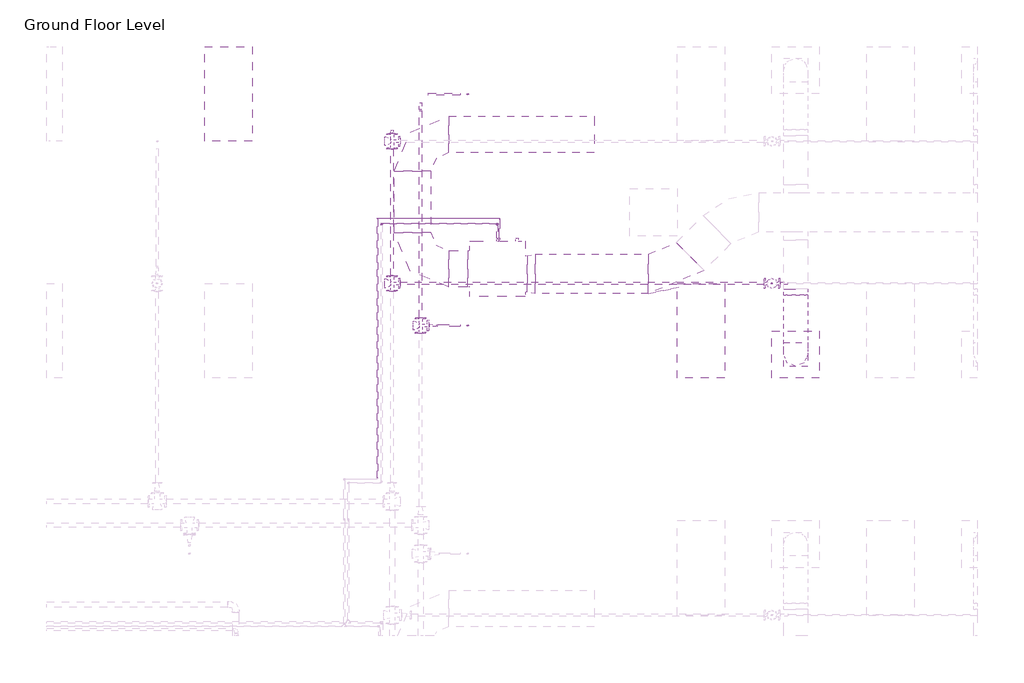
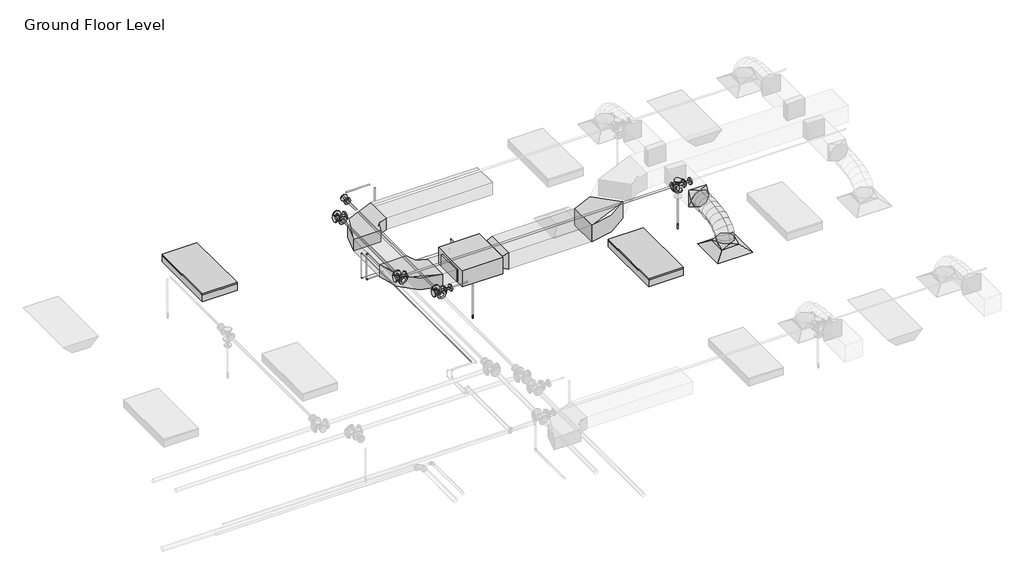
# One storey, part 70 of 72: 18 pipe segments, 15 pipe fittings, 6 duct fittings, 5 duct segments, 3 fire suppression terminals, 2 light fixtures, 1 air terminal, 1 proxy.
"""IFC4 building model written with IfcOpenShell, lengths in millimetres."""

from ifc_helpers import new_model, si_unit, point, frame, frame_2d, origin, place, context, project, spatial, polyline, circle_curve, ellipse_curve, trimmed, segment, composite_curve, outline, extrude, transform, mapped, element, save
from ifc_brep_helpers import plane_surface, cylinder_surface, advanced_brep
from components import m_return_diffuser_600_x_600_face_300_x_300_connection_ff221211, fcu_daikin_iu_bad131e0, m_rectangular_elbow_radius_1_w_54c96895, m_rectangular_elbow_radius_1_5_w_acc56c25, m_rectangular_transition_angle_45_degree_2b595dfe, m_rectangular_to_round_transition_angle_45_degree_641efff0, m_sprinkler_dry_pendent_hosted_15_mm_dry_pendent_9bda8e11, m_sprinkler_pendent_15_mm_pendent_06fcbd8e, m_troffer_light_parabolic_rectangular1_0600x1200mm_4_lamp_86473d4a, m_elbow_generic_standard_a088f956, m_elbow_generic_standard_2a704253, m_reducer_flanged_cs_class_150_standard_ccf252ad, m_reducer_flanged_cs_class_150_standard_d42b2106, m_tee_round_base_flanged_cs_class_150_standard_7e5987a1

model = new_model("IFC4")

# Units and contexts
model_context = context("Model", 3, world=origin())
ifc_project = project(units=[si_unit("LENGTHUNIT", "METRE", prefix="MILLI")], contexts=[model_context])

# Site, building, storey
site = spatial("IfcSite", under=ifc_project)
building = spatial("IfcBuilding", under=site)
storey = spatial("IfcBuildingStorey", under=building, Name="Ground Floor Level", Elevation=900.0)

# Air terminal
placement = place(None, origin())
m_return_diffuser_600_x_600_face_300_x_300_connection_shape = m_return_diffuser_600_x_600_face_300_x_300_connection_ff221211(model_context)
element("IfcAirTerminal", 1, ObjectType="M_Supply Diffuser : 600 x 600 Face 300 x 300 Connection", at=placement, inside=storey, context=model_context, shape_type="MappedRepresentation", body=[
    mapped(m_return_diffuser_600_x_600_face_300_x_300_connection_shape, transform((10742.7672395, 16935.2153534, 3650.0), x_axis=(1.0, 0.0, 0.0), y_axis=(0.0, 1.0, 0.0), z_axis=(0.0, 0.0, 1.0))),
])

# Proxy
fcu_daikin_iu_shape = fcu_daikin_iu_bad131e0(model_context)
element("IfcBuildingElementProxy", 2, Name="FCU-DAIKIN IU : 4.5kW, 230V/50Hz/1Ph", ObjectType="FCU-DAIKIN IU : 4.5kW, 230V/50Hz/1Ph", at=placement, inside=storey, context=model_context, shape_type="MappedRepresentation", body=[
    mapped(fcu_daikin_iu_shape, transform((6968.8139492, 18019.6779527, 3934.0932729), x_axis=(0.0, 1.0, 0.0), y_axis=(-1.0, 0.0, 0.0), z_axis=(0.0, 0.0, 1.0))),
])

# Duct fittings
m_rectangular_elbow_radius_1_w_shape = m_rectangular_elbow_radius_1_w_54c96895(model_context)
element("IfcDuctFitting", 3, ObjectType="M_Rectangular Elbow - Radius : 1 W", at=placement, inside=storey, context=model_context, shape_type="MappedRepresentation", body=[
    mapped(m_rectangular_elbow_radius_1_w_shape, transform((5893.4139492, 18019.6779527, 4075.2932729), x_axis=(0.0, -1.0, 0.0), y_axis=(1.0, 0.0, 0.0), z_axis=(0.0, 0.0, 1.0))),
])
element("IfcDuctFitting", 4, ObjectType="M_Rectangular Elbow - Radius : 1 W", at=placement, inside=storey, context=model_context, shape_type="MappedRepresentation", body=[
    mapped(m_rectangular_elbow_radius_1_w_shape, transform((5893.4139492, 19719.6783949, 4075.2932729), x_axis=(-1.0, 0.0, 0.0), y_axis=(0.0, -1.0, 0.0), z_axis=(0.0, 0.0, 1.0))),
])
m_rectangular_elbow_radius_1_5_w_shape = m_rectangular_elbow_radius_1_5_w_acc56c25(model_context)
element("IfcDuctFitting", 5, ObjectType="M_Rectangular Elbow - Radius : 1.5 W", at=placement, inside=storey, context=model_context, shape_type="MappedRepresentation", body=[
    mapped(m_rectangular_elbow_radius_1_5_w_shape, transform((9187.6927358, 17956.1779527, 4100.0047224), x_axis=(0.9999999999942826, 0.0, -3.3815582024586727e-06), y_axis=(-9.063610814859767e-12, 0.9999999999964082, -2.680306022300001e-06), z_axis=(3.3815582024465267e-06, 2.6803060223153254e-06, 0.9999999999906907))),
])
m_rectangular_transition_angle_45_degree_shape = m_rectangular_transition_angle_45_degree_2b595dfe(model_context)
element("IfcDuctFitting", 6, ObjectType="M_Rectangular Transition - Angle : 45 Degree", at=placement, inside=storey, context=model_context, shape_type="MappedRepresentation", body=[
    mapped(m_rectangular_transition_angle_45_degree_shape, transform((7344.2139492, 17956.1779527, 4100.0057729), x_axis=(1.0, 0.0, 0.0), y_axis=(0.0, 1.0, 0.0), z_axis=(0.0, 0.0, 1.0))),
])
m_rectangular_to_round_transition_angle_45_degree_shape = m_rectangular_to_round_transition_angle_45_degree_641efff0(model_context)
element("IfcDuctFitting", 7, ObjectType="M_Rectangular to Round Transition - Angle : 45 Degree", at=placement, inside=storey, context=model_context, shape_type="MappedRepresentation", body=[
    mapped(m_rectangular_to_round_transition_angle_45_degree_shape, transform((10742.7672395, 16935.2153534, 3751.6), x_axis=(0.0, 0.0, 1.0), y_axis=(-1.0, 0.0, 0.0), z_axis=(0.0, -1.0, 0.0))),
])
element("IfcDuctFitting", 8, ObjectType="M_Rectangular to Round Transition - Angle : 45 Degree", at=placement, inside=storey, context=model_context, shape_type="MappedRepresentation", body=[
    mapped(m_rectangular_to_round_transition_angle_45_degree_shape, transform((10742.7672395, 17762.5512847, 4100.0), x_axis=(0.0, -1.0, 0.0), y_axis=(1.0, 0.0, 0.0), z_axis=(0.0, 0.0, 1.0))),
])

# Duct segments
element("IfcDuctSegment", 9, ObjectType="Flex - Round", at=placement, inside=storey, context=model_context, shape_type="AdvancedBrep", body=[
    advanced_brep(
    [(10892.7672395, 16935.2153534, 3826.6), (10742.7672395, 16785.2153534, 3826.6), (10592.7672395, 16935.2153534, 3826.6), (10742.7672395, 17085.2153534, 3826.6), (10892.7672395, 16935.2153534, 3857.9377114), (10742.7672395, 16785.2153534, 3883.5809337), (10592.7672395, 16935.2153534, 3857.9377114), (10742.7672395, 17085.2153534, 3832.2944892), (10892.7672395, 16952.2312859, 3906.2505728), (10742.7672395, 16818.493307, 3978.0660967), (10592.7672395, 16952.2312859, 3906.2505728), (10742.7672395, 17085.9692649, 3834.435049), (10892.7672395, 16999.4151663, 3968.7113131), (10742.7672395, 16895.209267, 4079.6206026), (10592.7672395, 16999.4151663, 3968.7113131), (10742.7672395, 17103.6210655, 3857.8020236), (10892.7672395, 17070.9711184, 4016.0700639), (10742.7672395, 17002.0370628, 4150.3237489), (10592.7672395, 17070.9711184, 4016.0700639), (10742.7672395, 17139.9051741, 3881.8163788), (10892.7672395, 17161.1032664, 4050.4146682), (10742.7672395, 17117.5425033, 4194.3367758), (10592.7672395, 17161.1032664, 4050.4146682), (10742.7672395, 17204.6640296, 3906.4925606), (10892.7672395, 17264.0157343, 4073.8329691), (10742.7672395, 17237.4548103, 4221.6234841), (10592.7672395, 17264.0157343, 4073.8329691), (10742.7672395, 17290.5766583, 3926.0424542), (10892.7672395, 17373.912646, 4088.4128097), (10742.7672395, 17358.7617437, 4237.7170733), (10592.7672395, 17373.912646, 4088.4128097), (10742.7672395, 17389.0635483, 3939.1085462), (10892.7672395, 17484.9981256, 4096.242033), (10742.7672395, 17477.4927975, 4246.085151), (10592.7672395, 17484.9981256, 4096.242033), (10742.7672395, 17492.5034538, 3946.398915), (10892.7672395, 17591.4762972, 4099.4084821), (10742.7672395, 17588.7848041, 4249.394754), (10592.7672395, 17591.4762972, 4099.4084821), (10742.7672395, 17594.1677903, 3949.4222102), (10892.7672395, 17687.5512847, 4100.0), (10742.7672395, 17688.4747925, 3950.0028429), (10592.7672395, 17687.5512847, 4100.0), (10742.7672395, 17686.6277768, 4249.9971571)],
    [
        (0, 1, circle_curve(frame((10742.7672395, 16935.2153534, 3826.6), z_axis=(0.0, 0.0, -1.0), x_axis=(1.0, 0.0, 0.0)), 150.0)),
        (1, 2, circle_curve(frame((10742.7672395, 16935.2153534, 3826.6), z_axis=(0.0, 0.0, -1.0), x_axis=(1.0, 0.0, 0.0)), 150.0)),
        (2, 3, circle_curve(frame((10742.7672395, 16935.2153534, 3826.6), z_axis=(0.0, 0.0, -1.0), x_axis=(1.0, 0.0, 0.0)), 150.0)),
        (3, 0, circle_curve(frame((10742.7672395, 16935.2153534, 3826.6), z_axis=(0.0, 0.0, -1.0), x_axis=(1.0, 0.0, 0.0)), 150.0)),
        (0, 4),
        (4, 5, ellipse_curve(frame((10742.7672395, 16935.2153534, 3857.9377114), z_axis=(0.0, -0.16851014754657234, -0.9856999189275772), x_axis=(0.0, 0.9856999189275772, -0.1685101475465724)), 152.176131, 150.0)),
        (5, 1),
        (5, 6, ellipse_curve(frame((10742.7672395, 16935.2153534, 3857.9377114), z_axis=(0.0, -0.16851014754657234, -0.9856999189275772), x_axis=(0.0, 0.9856999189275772, -0.1685101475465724)), 152.176131, 150.0)),
        (6, 2),
        (6, 7, ellipse_curve(frame((10742.7672395, 16935.2153534, 3857.9377114), z_axis=(0.0, -0.16851014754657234, -0.9856999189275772), x_axis=(0.0, 0.9856999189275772, -0.1685101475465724)), 152.176131, 150.0)),
        (7, 3),
        (7, 4, ellipse_curve(frame((10742.7672395, 16935.2153534, 3857.9377114), z_axis=(0.0, -0.16851014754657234, -0.9856999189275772), x_axis=(0.0, 0.9856999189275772, -0.1685101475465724)), 152.176131, 150.0)),
        (4, 8),
        (8, 9, ellipse_curve(frame((10742.7672395, 16952.2312859, 3906.2505728), z_axis=(0.0, -0.47309225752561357, -0.8810128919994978), x_axis=(0.0, 0.8810128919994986, -0.47309225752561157)), 151.8002519, 150.0)),
        (9, 5),
        (9, 10, ellipse_curve(frame((10742.7672395, 16952.2312859, 3906.2505728), z_axis=(0.0, -0.47309225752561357, -0.8810128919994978), x_axis=(0.0, 0.8810128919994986, -0.47309225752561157)), 151.8002519, 150.0)),
        (10, 6),
        (10, 11, ellipse_curve(frame((10742.7672395, 16952.2312859, 3906.2505728), z_axis=(0.0, -0.47309225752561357, -0.8810128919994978), x_axis=(0.0, 0.8810128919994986, -0.47309225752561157)), 151.8002519, 150.0)),
        (11, 7),
        (11, 8, ellipse_curve(frame((10742.7672395, 16952.2312859, 3906.2505728), z_axis=(0.0, -0.47309225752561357, -0.8810128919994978), x_axis=(0.0, 0.8810128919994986, -0.47309225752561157)), 151.8002519, 150.0)),
        (8, 12),
        (12, 13, ellipse_curve(frame((10742.7672395, 16999.4151663, 3968.7113131), z_axis=(0.0, -0.7287877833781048, -0.6847396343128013), x_axis=(0.0, 0.6847396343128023, -0.7287877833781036)), 152.1832446, 150.0)),
        (13, 9),
        (13, 14, ellipse_curve(frame((10742.7672395, 16999.4151663, 3968.7113131), z_axis=(0.0, -0.7287877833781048, -0.6847396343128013), x_axis=(0.0, 0.6847396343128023, -0.7287877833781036)), 152.1832446, 150.0)),
        (14, 10),
        (14, 15, ellipse_curve(frame((10742.7672395, 16999.4151663, 3968.7113131), z_axis=(0.0, -0.7287877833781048, -0.6847396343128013), x_axis=(0.0, 0.6847396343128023, -0.7287877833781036)), 152.1832446, 150.0)),
        (15, 11),
        (15, 12, ellipse_curve(frame((10742.7672395, 16999.4151663, 3968.7113131), z_axis=(0.0, -0.7287877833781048, -0.6847396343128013), x_axis=(0.0, 0.6847396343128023, -0.7287877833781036)), 152.1832446, 150.0)),
        (12, 16),
        (16, 17, ellipse_curve(frame((10742.7672395, 17070.9711184, 4016.0700639), z_axis=(0.0, -0.8895859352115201, -0.45676784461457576), x_axis=(0.0, 0.45676784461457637, -0.8895859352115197)), 150.91705, 150.0)),
        (17, 13),
        (17, 18, ellipse_curve(frame((10742.7672395, 17070.9711184, 4016.0700639), z_axis=(0.0, -0.8895859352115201, -0.45676784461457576), x_axis=(0.0, 0.45676784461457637, -0.8895859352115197)), 150.91705, 150.0)),
        (18, 14),
        (18, 19, ellipse_curve(frame((10742.7672395, 17070.9711184, 4016.0700639), z_axis=(0.0, -0.8895859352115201, -0.45676784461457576), x_axis=(0.0, 0.45676784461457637, -0.8895859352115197)), 150.91705, 150.0)),
        (19, 15),
        (19, 16, ellipse_curve(frame((10742.7672395, 17070.9711184, 4016.0700639), z_axis=(0.0, -0.8895859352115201, -0.45676784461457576), x_axis=(0.0, 0.45676784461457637, -0.8895859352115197)), 150.91705, 150.0)),
        (16, 20),
        (20, 21, ellipse_curve(frame((10742.7672395, 17161.1032664, 4050.4146682), z_axis=(0.0, -0.9571203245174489, -0.2896906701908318), x_axis=(0.0, 0.28969067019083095, -0.9571203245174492)), 150.369921, 150.0)),
        (21, 17),
        (21, 22, ellipse_curve(frame((10742.7672395, 17161.1032664, 4050.4146682), z_axis=(0.0, -0.9571203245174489, -0.2896906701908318), x_axis=(0.0, 0.28969067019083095, -0.9571203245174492)), 150.369921, 150.0)),
        (22, 18),
        (22, 23, ellipse_curve(frame((10742.7672395, 17161.1032664, 4050.4146682), z_axis=(0.0, -0.9571203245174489, -0.2896906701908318), x_axis=(0.0, 0.28969067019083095, -0.9571203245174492)), 150.369921, 150.0)),
        (23, 19),
        (23, 20, ellipse_curve(frame((10742.7672395, 17161.1032664, 4050.4146682), z_axis=(0.0, -0.9571203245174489, -0.2896906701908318), x_axis=(0.0, 0.28969067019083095, -0.9571203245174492)), 150.369921, 150.0)),
        (20, 24),
        (24, 25, ellipse_curve(frame((10742.7672395, 17264.0157343, 4073.8329691), z_axis=(0.0, -0.9842313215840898, -0.17688613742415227), x_axis=(0.0, 0.17688613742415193, -0.9842313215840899)), 150.1583131, 150.0)),
        (25, 21),
        (25, 26, ellipse_curve(frame((10742.7672395, 17264.0157343, 4073.8329691), z_axis=(0.0, -0.9842313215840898, -0.17688613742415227), x_axis=(0.0, 0.17688613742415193, -0.9842313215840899)), 150.1583131, 150.0)),
        (26, 22),
        (26, 27, ellipse_curve(frame((10742.7672395, 17264.0157343, 4073.8329691), z_axis=(0.0, -0.9842313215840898, -0.17688613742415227), x_axis=(0.0, 0.17688613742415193, -0.9842313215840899)), 150.1583131, 150.0)),
        (27, 23),
        (27, 24, ellipse_curve(frame((10742.7672395, 17264.0157343, 4073.8329691), z_axis=(0.0, -0.9842313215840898, -0.17688613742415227), x_axis=(0.0, 0.17688613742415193, -0.9842313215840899)), 150.1583131, 150.0)),
        (24, 28),
        (28, 29, ellipse_curve(frame((10742.7672395, 17373.912646, 4088.4128097), z_axis=(0.0, -0.9948906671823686, -0.1009582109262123), x_axis=(0.0, 0.10095821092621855, -0.994890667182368)), 150.0710264, 150.0)),
        (29, 25),
        (29, 30, ellipse_curve(frame((10742.7672395, 17373.912646, 4088.4128097), z_axis=(0.0, -0.9948906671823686, -0.1009582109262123), x_axis=(0.0, 0.10095821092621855, -0.994890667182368)), 150.0710264, 150.0)),
        (30, 26),
        (30, 31, ellipse_curve(frame((10742.7672395, 17373.912646, 4088.4128097), z_axis=(0.0, -0.9948906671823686, -0.1009582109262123), x_axis=(0.0, 0.10095821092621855, -0.994890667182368)), 150.0710264, 150.0)),
        (31, 27),
        (31, 28, ellipse_curve(frame((10742.7672395, 17373.912646, 4088.4128097), z_axis=(0.0, -0.9948906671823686, -0.1009582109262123), x_axis=(0.0, 0.10095821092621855, -0.994890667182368)), 150.0710264, 150.0)),
        (28, 32),
        (32, 33, ellipse_curve(frame((10742.7672395, 17484.9981256, 4096.242033), z_axis=(0.0, -0.9987479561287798, -0.05002519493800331), x_axis=(0.0, 0.05002519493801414, -0.9987479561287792)), 150.0309634, 150.0)),
        (33, 29),
        (33, 34, ellipse_curve(frame((10742.7672395, 17484.9981256, 4096.242033), z_axis=(0.0, -0.9987479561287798, -0.05002519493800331), x_axis=(0.0, 0.05002519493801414, -0.9987479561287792)), 150.0309634, 150.0)),
        (34, 30),
        (34, 35, ellipse_curve(frame((10742.7672395, 17484.9981256, 4096.242033), z_axis=(0.0, -0.9987479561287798, -0.05002519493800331), x_axis=(0.0, 0.05002519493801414, -0.9987479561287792)), 150.0309634, 150.0)),
        (35, 31),
        (35, 32, ellipse_curve(frame((10742.7672395, 17484.9981256, 4096.242033), z_axis=(0.0, -0.9987479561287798, -0.05002519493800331), x_axis=(0.0, 0.05002519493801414, -0.9987479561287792)), 150.0309634, 150.0)),
        (32, 36),
        (36, 37, ellipse_curve(frame((10742.7672395, 17591.4762972, 4099.4084821), z_axis=(0.0, -0.9998390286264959, -0.017942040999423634), x_axis=(0.0, 0.017942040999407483, -0.9998390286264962)), 150.0104193, 150.0)),
        (37, 33),
        (37, 38, ellipse_curve(frame((10742.7672395, 17591.4762972, 4099.4084821), z_axis=(0.0, -0.9998390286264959, -0.017942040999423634), x_axis=(0.0, 0.017942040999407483, -0.9998390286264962)), 150.0104193, 150.0)),
        (38, 34),
        (38, 39, ellipse_curve(frame((10742.7672395, 17591.4762972, 4099.4084821), z_axis=(0.0, -0.9998390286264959, -0.017942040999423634), x_axis=(0.0, 0.017942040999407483, -0.9998390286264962)), 150.0104193, 150.0)),
        (39, 35),
        (39, 36, ellipse_curve(frame((10742.7672395, 17591.4762972, 4099.4084821), z_axis=(0.0, -0.9998390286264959, -0.017942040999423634), x_axis=(0.0, 0.017942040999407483, -0.9998390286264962)), 150.0104193, 150.0)),
        (40, 41, circle_curve(frame((10742.7672395, 17687.5512847, 4100.0), z_axis=(0.0, 0.9999810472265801, 0.006156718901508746), x_axis=(1.0, 0.0, 0.0)), 150.0)),
        (41, 42, circle_curve(frame((10742.7672395, 17687.5512847, 4100.0), z_axis=(0.0, 0.9999810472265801, 0.006156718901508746), x_axis=(1.0, 0.0, 0.0)), 150.0)),
        (42, 43, circle_curve(frame((10742.7672395, 17687.5512847, 4100.0), z_axis=(0.0, 0.9999810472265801, 0.006156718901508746), x_axis=(1.0, 0.0, 0.0)), 150.0)),
        (43, 40, circle_curve(frame((10742.7672395, 17687.5512847, 4100.0), z_axis=(0.0, 0.9999810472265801, 0.006156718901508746), x_axis=(1.0, 0.0, 0.0)), 150.0)),
        (36, 40),
        (43, 37),
        (42, 38),
        (41, 39),
    ],
    [
        plane_surface(frame((10742.7672395, 16785.2153534, 3826.6), z_axis=(0.0, 0.0, -1.0), x_axis=(1.0, 0.0, 0.0))),
        cylinder_surface(frame((10742.7672395, 16935.2153534, 3826.6), z_axis=(0.0, 0.0, -1.0), x_axis=(1.0, 0.0, 0.0)), 150.0),
        cylinder_surface(frame((10742.7672395, 16935.2153534, 3857.9377114), z_axis=(0.0, -0.3322008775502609, -0.9432086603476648), x_axis=(1.0, 0.0, 0.0)), 150.0),
        cylinder_surface(frame((10742.7672395, 16952.2312859, 3906.2505728), z_axis=(0.0, -0.6027625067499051, -0.7979206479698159), x_axis=(1.0, 0.0, 0.0)), 150.0),
        cylinder_surface(frame((10742.7672395, 16999.4151663, 3968.7113131), z_axis=(0.0, -0.833902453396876, -0.5519118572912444), x_axis=(1.0, 0.0, 0.0)), 150.0),
        cylinder_surface(frame((10742.7672395, 17070.9711184, 4016.0700639), z_axis=(0.0, -0.9344582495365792, -0.35607271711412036), x_axis=(1.0, 0.0, 0.0)), 150.0),
        cylinder_surface(frame((10742.7672395, 17161.1032664, 4050.4146682), z_axis=(0.0, -0.9750732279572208, -0.22188330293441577), x_axis=(1.0, 0.0, 0.0)), 150.0),
        cylinder_surface(frame((10742.7672395, 17264.0157343, 4073.8329691), z_axis=(0.0, -0.9913140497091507, -0.13151598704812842), x_axis=(1.0, 0.0, 0.0)), 150.0),
        cylinder_surface(frame((10742.7672395, 17373.912646, 4088.4128097), z_axis=(0.0, -0.9975255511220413, -0.07030487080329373), x_axis=(1.0, 0.0, 0.0)), 150.0),
        cylinder_surface(frame((10742.7672395, 17484.9981256, 4096.242033), z_axis=(0.0, -0.9995581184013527, -0.02972487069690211), x_axis=(1.0, 0.0, 0.0)), 150.0),
        plane_surface(frame((10742.7672395, 17686.6277768, 4249.9971571), z_axis=(0.0, 0.9999810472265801, 0.0061567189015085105), x_axis=(1.0, 0.0, 0.0))),
        cylinder_surface(frame((10742.7672395, 17591.4762972, 4099.4084821), z_axis=(0.0, -0.9999810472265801, -0.006156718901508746), x_axis=(1.0, 0.0, 0.0)), 150.0),
    ],
    [
        (0, [[1, 2, 3, 4]]),
        (1, [[-1, 5, 6, 7]]),
        (1, [[-2, -7, 8, 9]]),
        (1, [[-3, -9, 10, 11]]),
        (1, [[-4, -11, 12, -5]]),
        (2, [[-6, 13, 14, 15]]),
        (2, [[-8, -15, 16, 17]]),
        (2, [[-10, -17, 18, 19]]),
        (2, [[-12, -19, 20, -13]]),
        (3, [[-14, 21, 22, 23]]),
        (3, [[-16, -23, 24, 25]]),
        (3, [[-18, -25, 26, 27]]),
        (3, [[-20, -27, 28, -21]]),
        (4, [[-22, 29, 30, 31]]),
        (4, [[-24, -31, 32, 33]]),
        (4, [[-26, -33, 34, 35]]),
        (4, [[-28, -35, 36, -29]]),
        (5, [[-30, 37, 38, 39]]),
        (5, [[-32, -39, 40, 41]]),
        (5, [[-34, -41, 42, 43]]),
        (5, [[-36, -43, 44, -37]]),
        (6, [[-38, 45, 46, 47]]),
        (6, [[-40, -47, 48, 49]]),
        (6, [[-42, -49, 50, 51]]),
        (6, [[-44, -51, 52, -45]]),
        (7, [[-46, 53, 54, 55]]),
        (7, [[-48, -55, 56, 57]]),
        (7, [[-50, -57, 58, 59]]),
        (7, [[-52, -59, 60, -53]]),
        (8, [[-54, 61, 62, 63]]),
        (8, [[-56, -63, 64, 65]]),
        (8, [[-58, -65, 66, 67]]),
        (8, [[-60, -67, 68, -61]]),
        (9, [[-62, 69, 70, 71]]),
        (9, [[-64, -71, 72, 73]]),
        (9, [[-66, -73, 74, 75]]),
        (9, [[-68, -75, 76, -69]]),
        (10, [[77, 78, 79, 80]]),
        (11, [[-70, 81, -80, 82]]),
        (11, [[-72, -82, -79, 83]]),
        (11, [[-74, -83, -78, 84]]),
        (11, [[-76, -84, -77, -81]]),
    ],
),
])
element("IfcDuctSegment", 10, ObjectType="Radius Elbows / Taps", at=placement, inside=storey, context=model_context, shape_type="SweptSolid", body=[
    extrude(outline(polyline([(7447.693178, 17706.1779527), (7447.693178, 18206.1779527), (8877.032564, 18206.1779527), (8877.032564, 17706.1779527), (7447.693178, 17706.1779527)])), frame((0.0, 0.0, 3950.0057729), z_axis=(0.0, 0.0, 1.0), x_axis=(1.0, 0.0, 0.0)), (0.0, 0.0, 1.0), 300.0),
])
element("IfcDuctSegment", 11, ObjectType="Radius Elbows / Taps", at=placement, inside=storey, context=model_context, shape_type="SweptSolid", body=[
    extrude(outline(polyline([(6593.4139492, 18250.6154527), (6593.4139492, 17788.7404527), (6355.2889492, 17788.7404527), (6355.2889492, 18250.6154527), (6593.4139492, 18250.6154527)])), frame((0.0, 0.0, 3968.1432729), z_axis=(0.0, 0.0, 1.0), x_axis=(1.0, 0.0, 0.0)), (0.0, 0.0, 1.0), 214.3),
])
element("IfcDuctSegment", 12, ObjectType="Radius Elbows / Taps", at=placement, inside=storey, context=model_context, shape_type="SweptSolid", body=[
    extrude(outline(polyline([(6124.3514492, 18481.5529527), (5662.4764492, 18481.5529527), (5662.4764492, 19257.8033949), (6124.3514492, 19257.8033949), (6124.3514492, 18481.5529527)])), frame((0.0, 0.0, 3968.1432729), z_axis=(0.0, 0.0, 1.0), x_axis=(1.0, 0.0, 0.0)), (0.0, 0.0, 1.0), 214.3),
])
element("IfcDuctSegment", 13, ObjectType="Radius Elbows / Taps", at=placement, inside=storey, context=model_context, shape_type="SweptSolid", body=[
    extrude(outline(polyline([(6355.2889492, 19488.7408949), (6355.2889492, 19950.6158949), (8193.4139492, 19950.6158949), (8193.4139492, 19488.7408949), (6355.2889492, 19488.7408949)])), frame((0.0, 0.0, 3968.1432729), z_axis=(0.0, 0.0, 1.0), x_axis=(1.0, 0.0, 0.0)), (0.0, 0.0, 1.0), 214.3),
])

# Fire suppression terminals
m_sprinkler_dry_pendent_hosted_15_mm_dry_pendent_shape = m_sprinkler_dry_pendent_hosted_15_mm_dry_pendent_9bda8e11(model_context)
element("IfcFireSuppressionTerminal", 14, ObjectType="M_Sprinkler - Dry - Pendent - Hosted : 15 mm Dry Pendent", at=placement, inside=storey, context=model_context, shape_type="MappedRepresentation", body=[
    mapped(m_sprinkler_dry_pendent_hosted_15_mm_dry_pendent_shape, transform((10442.7672395, 17835.2153534, 3650.0), x_axis=(1.0, 0.0, 0.0), y_axis=(0.0, -1.0, 0.0), z_axis=(0.0, 0.0, -1.0))),
])
m_sprinkler_pendent_15_mm_pendent_shape = m_sprinkler_pendent_15_mm_pendent_06fcbd8e(model_context)
element("IfcFireSuppressionTerminal", 15, ObjectType="M_Sprinkler - Pendent : 15 mm Pendent", at=placement, inside=storey, context=model_context, shape_type="MappedRepresentation", body=[
    mapped(m_sprinkler_pendent_15_mm_pendent_shape, transform((6592.5481019, 17301.8585069, 3650.0), x_axis=(1.0, 0.0, 0.0), y_axis=(0.0, 1.0, 0.0), z_axis=(0.0, 0.0, 1.0))),
])
element("IfcFireSuppressionTerminal", 16, ObjectType="M_Sprinkler - Pendent : 15 mm Pendent", at=placement, inside=storey, context=model_context, shape_type="MappedRepresentation", body=[
    mapped(m_sprinkler_pendent_15_mm_pendent_shape, transform((6592.5481019, 20231.639515, 3650.0), x_axis=(1.0, 0.0, 0.0), y_axis=(0.0, 1.0, 0.0), z_axis=(0.0, 0.0, 1.0))),
])

# Light fixtures
m_troffer_light_parabolic_rectangular1_0600x1200mm_4_lamp_shape = m_troffer_light_parabolic_rectangular1_0600x1200mm_4_lamp_86473d4a(model_context)
element("IfcLightFixture", 17, ObjectType="M_Troffer Light - Parabolic Rectangular1 : 0600x1200mm(4 Lamp) - 277V 2", at=placement, inside=storey, context=model_context, shape_type="MappedRepresentation", body=[
    mapped(m_troffer_light_parabolic_rectangular1_0600x1200mm_4_lamp_shape, transform((3503.3013074, 20253.918855, 3650.0), x_axis=(0.0, 1.0, 0.0), y_axis=(-1.0, 0.0, 0.0), z_axis=(0.0, 0.0, 1.0))),
])
element("IfcLightFixture", 18, ObjectType="M_Troffer Light - Parabolic Rectangular1 : 0600x1200mm(4 Lamp) - 277V 2", at=placement, inside=storey, context=model_context, shape_type="MappedRepresentation", body=[
    mapped(m_troffer_light_parabolic_rectangular1_0600x1200mm_4_lamp_shape, transform((9483.3013074, 17253.918855, 3650.0), x_axis=(0.0, 1.0, 0.0), y_axis=(-1.0, 0.0, 0.0), z_axis=(0.0, 0.0, 1.0))),
])

# Pipe fittings
m_elbow_generic_standard_shape = m_elbow_generic_standard_a088f956(model_context)
element("IfcPipeFitting", 19, ObjectType="M_Elbow - Generic : Standard", at=placement, inside=storey, context=model_context, shape_type="MappedRepresentation", body=[
    mapped(m_elbow_generic_standard_shape, transform((5501.7675988, 18590.9278534, 4380.0), x_axis=(0.0, 0.0, 1.0), y_axis=(0.0, -1.0, 0.0), z_axis=(1.0, 0.0, 0.0))),
])
element("IfcPipeFitting", 20, ObjectType="M_Elbow - Generic : Standard", at=placement, inside=storey, context=model_context, shape_type="MappedRepresentation", body=[
    mapped(m_elbow_generic_standard_shape, transform((6968.8139492, 18590.9278534, 4034.0932729), x_axis=(0.0, 1.0, 0.0), y_axis=(0.0, 0.0, -1.0), z_axis=(-1.0, 0.0, 0.0))),
])
element("IfcPipeFitting", 21, ObjectType="M_Elbow - Generic : Standard", at=placement, inside=storey, context=model_context, shape_type="MappedRepresentation", body=[
    mapped(m_elbow_generic_standard_shape, transform((6968.8139492, 18590.9278534, 3900.0), x_axis=(0.0, 0.0, -1.0), y_axis=(-1.0, 0.0, 0.0), z_axis=(0.0, 1.0, 0.0))),
])
element("IfcPipeFitting", 22, ObjectType="M_Elbow - Generic : Standard", at=placement, inside=storey, context=model_context, shape_type="MappedRepresentation", body=[
    mapped(m_elbow_generic_standard_shape, transform((5501.7675988, 18590.9278534, 3900.0), x_axis=(0.0, 0.0, -1.0), y_axis=(1.0, 0.0, 0.0), z_axis=(0.0, -1.0, 0.0))),
])
m_elbow_generic_standard_2_shape = m_elbow_generic_standard_2a704253(model_context)
element("IfcPipeFitting", 23, ObjectType="M_Elbow - Generic : Standard", at=placement, inside=storey, context=model_context, shape_type="MappedRepresentation", body=[
    mapped(m_elbow_generic_standard_2_shape, transform((5452.0810646, 18659.0778536, 4365.0), x_axis=(0.0, 1.0, 0.0), y_axis=(0.0, 0.0, -1.0), z_axis=(-1.0, 0.0, 0.0))),
])
element("IfcPipeFitting", 24, ObjectType="M_Elbow - Generic : Standard", at=placement, inside=storey, context=model_context, shape_type="MappedRepresentation", body=[
    mapped(m_elbow_generic_standard_2_shape, transform((6993.8139492, 18659.0778534, 4084.8932729), x_axis=(0.0, 1.0, 0.0), y_axis=(0.0, 0.0, -1.0), z_axis=(-1.0, 0.0, 0.0))),
])
element("IfcPipeFitting", 25, ObjectType="M_Elbow - Generic : Standard", at=placement, inside=storey, context=model_context, shape_type="MappedRepresentation", body=[
    mapped(m_elbow_generic_standard_2_shape, transform((6993.8139492, 18659.0778536, 3900.0), x_axis=(0.0, 0.0, -1.0), y_axis=(-1.0, 0.0, 0.0), z_axis=(0.0, 1.0, 0.0))),
])
element("IfcPipeFitting", 26, ObjectType="M_Elbow - Generic : Standard", at=placement, inside=storey, context=model_context, shape_type="MappedRepresentation", body=[
    mapped(m_elbow_generic_standard_2_shape, transform((5452.0810646, 18659.0778534, 3900.0), x_axis=(0.0, 0.0, -1.0), y_axis=(1.0, 0.0, 0.0), z_axis=(0.0, -1.0, 0.0))),
])
m_reducer_flanged_cs_class_150_standard_shape = m_reducer_flanged_cs_class_150_standard_ccf252ad(model_context)
element("IfcPipeFitting", 27, ObjectType="M_Reducer - Flanged - CS - Class 150 : Standard", at=placement, inside=storey, context=model_context, shape_type="MappedRepresentation", body=[
    mapped(m_reducer_flanged_cs_class_150_standard_shape, transform((5997.057812, 20024.6309212, 4291.0943441), x_axis=(0.0, 1.0, 0.0), y_axis=(-1.0, 0.0, 0.0), z_axis=(0.0, 0.0, 1.0))),
])
element("IfcPipeFitting", 28, ObjectType="M_Reducer - Flanged - CS - Class 150 : Standard", at=placement, inside=storey, context=model_context, shape_type="MappedRepresentation", body=[
    mapped(m_reducer_flanged_cs_class_150_standard_shape, transform((10543.4758332, 17835.2153534, 4360.0), x_axis=(1.0, 0.0, 0.0), y_axis=(0.0, 0.0, 1.0), z_axis=(0.0, -1.0, 0.0))),
])
m_reducer_flanged_cs_class_150_standard_2_shape = m_reducer_flanged_cs_class_150_standard_d42b2106(model_context)
element("IfcPipeFitting", 29, ObjectType="M_Reducer - Flanged - CS - Class 150 : Standard", at=placement, inside=storey, context=model_context, shape_type="MappedRepresentation", body=[
    mapped(m_reducer_flanged_cs_class_150_standard_2_shape, transform((6097.7664057, 17301.8585069, 4291.2754753), x_axis=(1.0, 0.0, 0.0), y_axis=(0.0, 0.0, -1.0), z_axis=(0.0, 1.0, 0.0))),
])
m_tee_round_base_flanged_cs_class_150_standard_shape = m_tee_round_base_flanged_cs_class_150_standard_7e5987a1(model_context)
element("IfcPipeFitting", 30, ObjectType="M_Tee Round Base - Flanged - CS - Class 150 : Standard", at=placement, inside=storey, context=model_context, shape_type="MappedRepresentation", body=[
    mapped(m_tee_round_base_flanged_cs_class_150_standard_shape, transform((5997.057812, 17301.8585069, 4291.0943441), x_axis=(0.0, -1.0, 0.0), y_axis=(-1.0, 0.0, 0.0), z_axis=(0.0, 0.0, -1.0))),
])
element("IfcPipeFitting", 31, ObjectType="M_Tee Round Base - Flanged - CS - Class 150 : Standard", at=placement, inside=storey, context=model_context, shape_type="MappedRepresentation", body=[
    mapped(m_tee_round_base_flanged_cs_class_150_standard_shape, transform((5635.869498, 19635.2153534, 4360.0), x_axis=(0.0, -1.0, 0.0), y_axis=(-1.0, 0.0, 0.0), z_axis=(0.0, 0.0, -1.0))),
])
element("IfcPipeFitting", 32, ObjectType="M_Tee Round Base - Flanged - CS - Class 150 : Standard", at=placement, inside=storey, context=model_context, shape_type="MappedRepresentation", body=[
    mapped(m_tee_round_base_flanged_cs_class_150_standard_shape, transform((5635.869498, 17835.2153534, 4360.0), x_axis=(0.0, -1.0, 0.0), y_axis=(-1.0, 0.0, 0.0), z_axis=(0.0, 0.0, -1.0))),
])
element("IfcPipeFitting", 33, ObjectType="M_Tee Round Base - Flanged - CS - Class 150 : Standard", at=placement, inside=storey, context=model_context, shape_type="MappedRepresentation", body=[
    mapped(m_tee_round_base_flanged_cs_class_150_standard_shape, transform((10442.7672395, 17835.2153534, 4360.0), x_axis=(1.0, 0.0, 0.0), y_axis=(0.0, 0.0, 1.0), z_axis=(0.0, -1.0, 0.0))),
])

# Pipe segments
element("IfcPipeSegment", 34, ObjectType="Copper", at=placement, inside=storey, context=model_context, shape_type="SweptSolid", body=[
    extrude(outline(composite_curve([segment(trimmed(circle_curve(frame_2d((4365.0, 5452.0810646)), 3.35), [point((4365.0, 5455.4310646))], [point((4368.35, 5452.0810646))], False, "CARTESIAN"), True, "CONTINUOUS"), segment(trimmed(circle_curve(frame_2d((4365.0, 5452.0810646)), 3.35), [point((4368.35, 5452.0810646))], [point((4365.0, 5448.7310646))], False, "CARTESIAN"), True, "CONTINUOUS"), segment(trimmed(circle_curve(frame_2d((4365.0, 5452.0810646)), 3.35), [point((4365.0, 5448.7310646))], [point((4361.65, 5452.0810646))], False, "CARTESIAN"), True, "CONTINUOUS"), segment(trimmed(circle_curve(frame_2d((4365.0, 5452.0810646)), 3.35), [point((4361.65, 5452.0810646))], [point((4365.0, 5455.4310646))], False, "CARTESIAN"), True, "CONTINUOUS")], self_intersect=False)), frame((0.0, 15370.2153534, 0.0), z_axis=(0.0, 1.0, 0.0), x_axis=(0.0, 0.0, 1.0)), (0.0, 0.0, 1.0), 3277.7250002),
])
element("IfcPipeSegment", 35, ObjectType="Copper", at=placement, inside=storey, context=model_context, shape_type="SweptSolid", body=[
    extrude(outline(composite_curve([segment(trimmed(circle_curve(frame_2d((18659.0778536, 3900.0)), 3.3499998), [point((18662.4278534, 3900.0))], [point((18659.0778534, 3896.65))], False, "CARTESIAN"), True, "CONTINUOUS"), segment(trimmed(circle_curve(frame_2d((18659.0778536, 3900.0)), 3.35), [point((18659.0778534, 3896.65))], [point((18655.7278534, 3900.0))], False, "CARTESIAN"), True, "CONTINUOUS"), segment(trimmed(circle_curve(frame_2d((18659.0778536, 3900.0)), 3.3500002), [point((18655.7278534, 3900.0))], [point((18659.0778534, 3903.35))], False, "CARTESIAN"), True, "CONTINUOUS"), segment(trimmed(circle_curve(frame_2d((18659.0778536, 3900.0)), 3.35), [point((18659.0778534, 3903.35))], [point((18662.4278534, 3900.0))], False, "CARTESIAN"), True, "CONTINUOUS")], self_intersect=False)), frame((5463.2185646, 0.0, 0.0), z_axis=(1.0, 0.0, 0.0), x_axis=(0.0, 1.0, 0.0)), (0.0, 0.0, 1.0), 1519.4578847),
])
element("IfcPipeSegment", 36, ObjectType="Copper", at=placement, inside=storey, context=model_context, shape_type="SweptSolid", body=[
    extrude(outline(composite_curve([segment(trimmed(circle_curve(frame_2d((18590.9278534, 3900.0)), 6.5), [point((18597.4278534, 3900.0))], [point((18590.9278534, 3893.5))], False, "CARTESIAN"), True, "CONTINUOUS"), segment(trimmed(circle_curve(frame_2d((18590.9278534, 3900.0)), 6.5), [point((18590.9278534, 3893.5))], [point((18584.4278534, 3900.0))], False, "CARTESIAN"), True, "CONTINUOUS"), segment(trimmed(circle_curve(frame_2d((18590.9278534, 3900.0)), 6.5), [point((18584.4278534, 3900.0))], [point((18590.9278534, 3906.5))], False, "CARTESIAN"), True, "CONTINUOUS"), segment(trimmed(circle_curve(frame_2d((18590.9278534, 3900.0)), 6.5), [point((18590.9278534, 3906.5))], [point((18597.4278534, 3900.0))], False, "CARTESIAN"), True, "CONTINUOUS")], self_intersect=False)), frame((5516.0550988, 0.0, 0.0), z_axis=(1.0, 0.0, 0.0), x_axis=(0.0, 1.0, 0.0)), (0.0, 0.0, 1.0), 1438.4713505),
])
element("IfcPipeSegment", 37, ObjectType="Copper", at=placement, inside=storey, context=model_context, shape_type="SweptSolid", body=[
    extrude(outline(composite_curve([segment(trimmed(circle_curve(frame_2d((4034.0932729, 6968.8139492)), 6.5), [point((4034.0932729, 6975.3139492))], [point((4040.5932729, 6968.8139492))], False, "CARTESIAN"), True, "CONTINUOUS"), segment(trimmed(circle_curve(frame_2d((4034.0932729, 6968.8139492)), 6.5), [point((4040.5932729, 6968.8139492))], [point((4034.0932729, 6962.3139492))], False, "CARTESIAN"), True, "CONTINUOUS"), segment(trimmed(circle_curve(frame_2d((4034.0932729, 6968.8139492)), 6.5), [point((4034.0932729, 6962.3139492))], [point((4027.5932729, 6968.8139492))], False, "CARTESIAN"), True, "CONTINUOUS"), segment(trimmed(circle_curve(frame_2d((4034.0932729, 6968.8139492)), 6.5), [point((4027.5932729, 6968.8139492))], [point((4034.0932729, 6975.3139492))], False, "CARTESIAN"), True, "CONTINUOUS")], self_intersect=False)), frame((0.0, 18407.7779527, 0.0), z_axis=(0.0, 1.0, 0.0), x_axis=(0.0, 0.0, 1.0)), (0.0, 0.0, 1.0), 168.8624007),
])
element("IfcPipeSegment", 38, ObjectType="Copper", at=placement, inside=storey, context=model_context, shape_type="SweptSolid", body=[
    extrude(outline(composite_curve([segment(trimmed(circle_curve(frame_2d((4084.8932729, 6993.8139492)), 3.35), [point((4084.8932729, 6997.1639492))], [point((4088.2432729, 6993.8139492))], False, "CARTESIAN"), True, "CONTINUOUS"), segment(trimmed(circle_curve(frame_2d((4084.8932729, 6993.8139492)), 3.35), [point((4088.2432729, 6993.8139492))], [point((4084.8932729, 6990.4639492))], False, "CARTESIAN"), True, "CONTINUOUS"), segment(trimmed(circle_curve(frame_2d((4084.8932729, 6993.8139492)), 3.35), [point((4084.8932729, 6990.4639492))], [point((4081.5432729, 6993.8139492))], False, "CARTESIAN"), True, "CONTINUOUS"), segment(trimmed(circle_curve(frame_2d((4084.8932729, 6993.8139492)), 3.35), [point((4081.5432729, 6993.8139492))], [point((4084.8932729, 6997.1639492))], False, "CARTESIAN"), True, "CONTINUOUS")], self_intersect=False)), frame((0.0, 18407.7779527, 0.0), z_axis=(0.0, 1.0, 0.0), x_axis=(0.0, 0.0, 1.0)), (0.0, 0.0, 1.0), 240.1624007),
])
element("IfcPipeSegment", 39, ObjectType="Copper", at=placement, inside=storey, context=model_context, shape_type="SweptSolid", body=[
    extrude(outline(composite_curve([segment(trimmed(circle_curve(frame_2d((5452.0810646, 18659.0778536)), 3.35), [point((5455.4310646, 18659.0778536))], [point((5452.0810646, 18655.7278536))], False, "CARTESIAN"), True, "CONTINUOUS"), segment(trimmed(circle_curve(frame_2d((5452.0810646, 18659.0778536)), 3.35), [point((5452.0810646, 18655.7278536))], [point((5448.7310646, 18659.0778536))], False, "CARTESIAN"), True, "CONTINUOUS"), segment(trimmed(circle_curve(frame_2d((5452.0810646, 18659.0778536)), 3.35), [point((5448.7310646, 18659.0778536))], [point((5452.0810646, 18662.4278536))], False, "CARTESIAN"), True, "CONTINUOUS"), segment(trimmed(circle_curve(frame_2d((5452.0810646, 18659.0778536)), 3.35), [point((5452.0810646, 18662.4278536))], [point((5455.4310646, 18659.0778536))], False, "CARTESIAN"), True, "CONTINUOUS")], self_intersect=False)), frame((0.0, 0.0, 3911.1375), z_axis=(0.0, 0.0, 1.0), x_axis=(1.0, 0.0, 0.0)), (0.0, 0.0, 1.0), 442.725),
])
element("IfcPipeSegment", 40, ObjectType="Copper", at=placement, inside=storey, context=model_context, shape_type="SweptSolid", body=[
    extrude(outline(composite_curve([segment(trimmed(circle_curve(frame_2d((5501.7675988, 18590.9278534)), 6.5), [point((5495.2675988, 18590.9278534))], [point((5501.7675988, 18597.4278534))], False, "CARTESIAN"), True, "CONTINUOUS"), segment(trimmed(circle_curve(frame_2d((5501.7675988, 18590.9278534)), 6.5), [point((5501.7675988, 18597.4278534))], [point((5508.2675988, 18590.9278534))], False, "CARTESIAN"), True, "CONTINUOUS"), segment(trimmed(circle_curve(frame_2d((5501.7675988, 18590.9278534)), 6.5), [point((5508.2675988, 18590.9278534))], [point((5501.7675988, 18584.4278534))], False, "CARTESIAN"), True, "CONTINUOUS"), segment(trimmed(circle_curve(frame_2d((5501.7675988, 18590.9278534)), 6.5), [point((5501.7675988, 18584.4278534))], [point((5495.2675988, 18590.9278534))], False, "CARTESIAN"), True, "CONTINUOUS")], self_intersect=False)), frame((0.0, 0.0, 3914.2875), z_axis=(0.0, 0.0, 1.0), x_axis=(1.0, 0.0, 0.0)), (0.0, 0.0, 1.0), 451.425),
])
element("IfcPipeSegment", 41, ObjectType="Copper", at=placement, inside=storey, context=model_context, shape_type="SweptSolid", body=[
    extrude(outline(composite_curve([segment(trimmed(circle_curve(frame_2d((6968.8139492, 18590.9278534)), 6.5), [point((6975.3139492, 18590.9278534))], [point((6968.8139492, 18584.4278534))], False, "CARTESIAN"), True, "CONTINUOUS"), segment(trimmed(circle_curve(frame_2d((6968.8139492, 18590.9278534)), 6.5), [point((6968.8139492, 18584.4278534))], [point((6962.3139492, 18590.9278534))], False, "CARTESIAN"), True, "CONTINUOUS"), segment(trimmed(circle_curve(frame_2d((6968.8139492, 18590.9278534)), 6.5), [point((6962.3139492, 18590.9278534))], [point((6968.8139492, 18597.4278534))], False, "CARTESIAN"), True, "CONTINUOUS"), segment(trimmed(circle_curve(frame_2d((6968.8139492, 18590.9278534)), 6.5), [point((6968.8139492, 18597.4278534))], [point((6975.3139492, 18590.9278534))], False, "CARTESIAN"), True, "CONTINUOUS")], self_intersect=False)), frame((0.0, 0.0, 3914.2875), z_axis=(0.0, 0.0, 1.0), x_axis=(1.0, 0.0, 0.0)), (0.0, 0.0, 1.0), 105.5182729),
])
element("IfcPipeSegment", 42, ObjectType="Copper", at=placement, inside=storey, context=model_context, shape_type="SweptSolid", body=[
    extrude(outline(composite_curve([segment(trimmed(circle_curve(frame_2d((6993.8139492, 18659.0778534)), 3.35), [point((6997.1639492, 18659.0778534))], [point((6993.8139492, 18655.7278534))], False, "CARTESIAN"), True, "CONTINUOUS"), segment(trimmed(circle_curve(frame_2d((6993.8139492, 18659.0778534)), 3.35), [point((6993.8139492, 18655.7278534))], [point((6990.4639492, 18659.0778534))], False, "CARTESIAN"), True, "CONTINUOUS"), segment(trimmed(circle_curve(frame_2d((6993.8139492, 18659.0778534)), 3.35), [point((6990.4639492, 18659.0778534))], [point((6993.8139492, 18662.4278534))], False, "CARTESIAN"), True, "CONTINUOUS"), segment(trimmed(circle_curve(frame_2d((6993.8139492, 18659.0778534)), 3.35), [point((6993.8139492, 18662.4278534))], [point((6997.1639492, 18659.0778534))], False, "CARTESIAN"), True, "CONTINUOUS")], self_intersect=False)), frame((0.0, 0.0, 3911.1375), z_axis=(0.0, 0.0, 1.0), x_axis=(1.0, 0.0, 0.0)), (0.0, 0.0, 1.0), 162.6182729),
])
element("IfcPipeSegment", 43, ObjectType="Steel flanged", at=placement, inside=storey, context=model_context, shape_type="SweptSolid", body=[
    extrude(outline(composite_curve([segment(trimmed(circle_curve(frame_2d((6592.5481019, 17301.8585069)), 10.668), [point((6581.8801019, 17301.8585069))], [point((6592.5481019, 17312.5265069))], False, "CARTESIAN"), True, "CONTINUOUS"), segment(trimmed(circle_curve(frame_2d((6592.5481019, 17301.8585069)), 10.668), [point((6592.5481019, 17312.5265069))], [point((6603.2161019, 17301.8585069))], False, "CARTESIAN"), True, "CONTINUOUS"), segment(trimmed(circle_curve(frame_2d((6592.5481019, 17301.8585069)), 10.668), [point((6603.2161019, 17301.8585069))], [point((6592.5481019, 17291.1905069))], False, "CARTESIAN"), True, "CONTINUOUS"), segment(trimmed(circle_curve(frame_2d((6592.5481019, 17301.8585069)), 10.668), [point((6592.5481019, 17291.1905069))], [point((6581.8801019, 17301.8585069))], False, "CARTESIAN"), True, "CONTINUOUS")], self_intersect=False)), frame((0.0, 0.0, 3650.0), z_axis=(0.0, 0.0, 1.0), x_axis=(1.0, 0.0, 0.0)), (0.0, 0.0, 1.0), 548.2668816),
])
element("IfcPipeSegment", 44, ObjectType="Steel flanged", at=placement, inside=storey, context=model_context, shape_type="SweptSolid", body=[
    extrude(outline(composite_curve([segment(trimmed(circle_curve(frame_2d((17301.8585069, 4291.2754753)), 10.668), [point((17312.5265069, 4291.2754753))], [point((17301.8585069, 4280.6074753))], False, "CARTESIAN"), True, "CONTINUOUS"), segment(trimmed(circle_curve(frame_2d((17301.8585069, 4291.2754753)), 10.668), [point((17301.8585069, 4280.6074753))], [point((17291.1905069, 4291.2754753))], False, "CARTESIAN"), True, "CONTINUOUS"), segment(trimmed(circle_curve(frame_2d((17301.8585069, 4291.2754753)), 10.668), [point((17291.1905069, 4291.2754753))], [point((17301.8585069, 4301.9434753))], False, "CARTESIAN"), True, "CONTINUOUS"), segment(trimmed(circle_curve(frame_2d((17301.8585069, 4291.2754753)), 10.668), [point((17301.8585069, 4301.9434753))], [point((17312.5265069, 4291.2754753))], False, "CARTESIAN"), True, "CONTINUOUS")], self_intersect=False)), frame((6211.7664057, 0.0, 0.0), z_axis=(1.0, 0.0, 0.0), x_axis=(0.0, 1.0, 0.0)), (0.0, 0.0, 1.0), 287.7731025),
])
element("IfcPipeSegment", 45, ObjectType="Steel flanged", at=placement, inside=storey, context=model_context, shape_type="SweptSolid", body=[
    extrude(outline(composite_curve([segment(trimmed(circle_curve(frame_2d((4291.0943441, 5997.057812)), 16.7005), [point((4291.0943441, 6013.758312))], [point((4307.7948441, 5997.057812))], False, "CARTESIAN"), True, "CONTINUOUS"), segment(trimmed(circle_curve(frame_2d((4291.0943441, 5997.057812)), 16.7005), [point((4307.7948441, 5997.057812))], [point((4291.0943441, 5980.357312))], False, "CARTESIAN"), True, "CONTINUOUS"), segment(trimmed(circle_curve(frame_2d((4291.0943441, 5997.057812)), 16.7005), [point((4291.0943441, 5980.357312))], [point((4274.3938441, 5997.057812))], False, "CARTESIAN"), True, "CONTINUOUS"), segment(trimmed(circle_curve(frame_2d((4291.0943441, 5997.057812)), 16.7005), [point((4274.3938441, 5997.057812))], [point((4291.0943441, 6013.758312))], False, "CARTESIAN"), True, "CONTINUOUS")], self_intersect=False)), frame((0.0, 17402.5671007, 0.0), z_axis=(0.0, 1.0, 0.0), x_axis=(0.0, 0.0, 1.0)), (0.0, 0.0, 1.0), 2622.0638206),
])
element("IfcPipeSegment", 46, ObjectType="Steel flanged", at=placement, inside=storey, context=model_context, shape_type="SweptSolid", body=[
    extrude(outline(composite_curve([segment(trimmed(circle_curve(frame_2d((6592.5481019, 20231.639515)), 10.668), [point((6581.8801019, 20231.639515))], [point((6592.5481019, 20242.307515))], False, "CARTESIAN"), True, "CONTINUOUS"), segment(trimmed(circle_curve(frame_2d((6592.5481019, 20231.639515)), 10.668), [point((6592.5481019, 20242.307515))], [point((6603.2161019, 20231.639515))], False, "CARTESIAN"), True, "CONTINUOUS"), segment(trimmed(circle_curve(frame_2d((6592.5481019, 20231.639515)), 10.668), [point((6603.2161019, 20231.639515))], [point((6592.5481019, 20220.971515))], False, "CARTESIAN"), True, "CONTINUOUS"), segment(trimmed(circle_curve(frame_2d((6592.5481019, 20231.639515)), 10.668), [point((6592.5481019, 20220.971515))], [point((6581.8801019, 20231.639515))], False, "CARTESIAN"), True, "CONTINUOUS")], self_intersect=False)), frame((0.0, 0.0, 3650.0), z_axis=(0.0, 0.0, 1.0), x_axis=(1.0, 0.0, 0.0)), (0.0, 0.0, 1.0), 548.2668816),
])
element("IfcPipeSegment", 47, ObjectType="Steel flanged", at=placement, inside=storey, context=model_context, shape_type="SweptSolid", body=[
    extrude(outline(composite_curve([segment(trimmed(circle_curve(frame_2d((20231.639515, 4291.2754753)), 10.668), [point((20242.307515, 4291.2754753))], [point((20231.639515, 4280.6074753))], False, "CARTESIAN"), True, "CONTINUOUS"), segment(trimmed(circle_curve(frame_2d((20231.639515, 4291.2754753)), 10.668), [point((20231.639515, 4280.6074753))], [point((20220.971515, 4291.2754753))], False, "CARTESIAN"), True, "CONTINUOUS"), segment(trimmed(circle_curve(frame_2d((20231.639515, 4291.2754753)), 10.668), [point((20220.971515, 4291.2754753))], [point((20231.639515, 4301.9434753))], False, "CARTESIAN"), True, "CONTINUOUS"), segment(trimmed(circle_curve(frame_2d((20231.639515, 4291.2754753)), 10.668), [point((20231.639515, 4301.9434753))], [point((20242.307515, 4291.2754753))], False, "CARTESIAN"), True, "CONTINUOUS")], self_intersect=False)), frame((6090.0664057, 0.0, 0.0), z_axis=(1.0, 0.0, 0.0), x_axis=(0.0, 1.0, 0.0)), (0.0, 0.0, 1.0), 409.4731025),
])
element("IfcPipeSegment", 48, ObjectType="Steel flanged", at=placement, inside=storey, context=model_context, shape_type="SweptSolid", body=[
    extrude(outline(composite_curve([segment(trimmed(circle_curve(frame_2d((4360.0, 5635.869498)), 16.7005), [point((4360.0, 5652.569998))], [point((4376.7005, 5635.869498))], False, "CARTESIAN"), True, "CONTINUOUS"), segment(trimmed(circle_curve(frame_2d((4360.0, 5635.869498)), 16.7005), [point((4376.7005, 5635.869498))], [point((4360.0, 5619.168998))], False, "CARTESIAN"), True, "CONTINUOUS"), segment(trimmed(circle_curve(frame_2d((4360.0, 5635.869498)), 16.7005), [point((4360.0, 5619.168998))], [point((4343.2995, 5635.869498))], False, "CARTESIAN"), True, "CONTINUOUS"), segment(trimmed(circle_curve(frame_2d((4360.0, 5635.869498)), 16.7005), [point((4343.2995, 5635.869498))], [point((4360.0, 5652.569998))], False, "CARTESIAN"), True, "CONTINUOUS")], self_intersect=False)), frame((0.0, 19735.9239471, 0.0), z_axis=(0.0, 1.0, 0.0), x_axis=(0.0, 0.0, 1.0)), (0.0, 0.0, 1.0), 37.2770357),
])
element("IfcPipeSegment", 49, ObjectType="Steel flanged", at=placement, inside=storey, context=model_context, shape_type="SweptSolid", body=[
    extrude(outline(composite_curve([segment(trimmed(circle_curve(frame_2d((4360.0, 5635.869498)), 16.7005), [point((4360.0, 5652.569998))], [point((4376.7005, 5635.869498))], False, "CARTESIAN"), True, "CONTINUOUS"), segment(trimmed(circle_curve(frame_2d((4360.0, 5635.869498)), 16.7005), [point((4376.7005, 5635.869498))], [point((4360.0, 5619.168998))], False, "CARTESIAN"), True, "CONTINUOUS"), segment(trimmed(circle_curve(frame_2d((4360.0, 5635.869498)), 16.7005), [point((4360.0, 5619.168998))], [point((4343.2995, 5635.869498))], False, "CARTESIAN"), True, "CONTINUOUS"), segment(trimmed(circle_curve(frame_2d((4360.0, 5635.869498)), 16.7005), [point((4343.2995, 5635.869498))], [point((4360.0, 5652.569998))], False, "CARTESIAN"), True, "CONTINUOUS")], self_intersect=False)), frame((0.0, 17935.9239471, 0.0), z_axis=(0.0, 1.0, 0.0), x_axis=(0.0, 0.0, 1.0)), (0.0, 0.0, 1.0), 1598.5828125),
])
element("IfcPipeSegment", 50, ObjectType="Steel flanged", at=placement, inside=storey, context=model_context, shape_type="SweptSolid", body=[
    extrude(outline(composite_curve([segment(trimmed(circle_curve(frame_2d((10442.7672395, 17835.2153534)), 10.668), [point((10432.0992395, 17835.2153534))], [point((10442.7672395, 17845.8833534))], False, "CARTESIAN"), True, "CONTINUOUS"), segment(trimmed(circle_curve(frame_2d((10442.7672395, 17835.2153534)), 10.668), [point((10442.7672395, 17845.8833534))], [point((10453.4352395, 17835.2153534))], False, "CARTESIAN"), True, "CONTINUOUS"), segment(trimmed(circle_curve(frame_2d((10442.7672395, 17835.2153534)), 10.668), [point((10453.4352395, 17835.2153534))], [point((10442.7672395, 17824.5473534))], False, "CARTESIAN"), True, "CONTINUOUS"), segment(trimmed(circle_curve(frame_2d((10442.7672395, 17835.2153534)), 10.668), [point((10442.7672395, 17824.5473534))], [point((10432.0992395, 17835.2153534))], False, "CARTESIAN"), True, "CONTINUOUS")], self_intersect=False)), frame((0.0, 0.0, 3650.0), z_axis=(0.0, 0.0, 1.0), x_axis=(1.0, 0.0, 0.0)), (0.0, 0.0, 1.0), 495.2914062),
])
element("IfcPipeSegment", 51, ObjectType="Steel flanged", at=placement, inside=storey, context=model_context, shape_type="SweptSolid", body=[
    extrude(outline(composite_curve([segment(trimmed(circle_curve(frame_2d((17835.2153534, 4360.0)), 16.7005), [point((17851.9158534, 4360.0))], [point((17835.2153534, 4343.2995))], False, "CARTESIAN"), True, "CONTINUOUS"), segment(trimmed(circle_curve(frame_2d((17835.2153534, 4360.0)), 16.7005), [point((17835.2153534, 4343.2995))], [point((17818.5148534, 4360.0))], False, "CARTESIAN"), True, "CONTINUOUS"), segment(trimmed(circle_curve(frame_2d((17835.2153534, 4360.0)), 16.7005), [point((17818.5148534, 4360.0))], [point((17835.2153534, 4376.7005))], False, "CARTESIAN"), True, "CONTINUOUS"), segment(trimmed(circle_curve(frame_2d((17835.2153534, 4360.0)), 16.7005), [point((17835.2153534, 4376.7005))], [point((17851.9158534, 4360.0))], False, "CARTESIAN"), True, "CONTINUOUS")], self_intersect=False)), frame((5736.5780918, 0.0, 0.0), z_axis=(1.0, 0.0, 0.0), x_axis=(0.0, 1.0, 0.0)), (0.0, 0.0, 1.0), 4605.480554),
])

save(model, "model.ifc")
